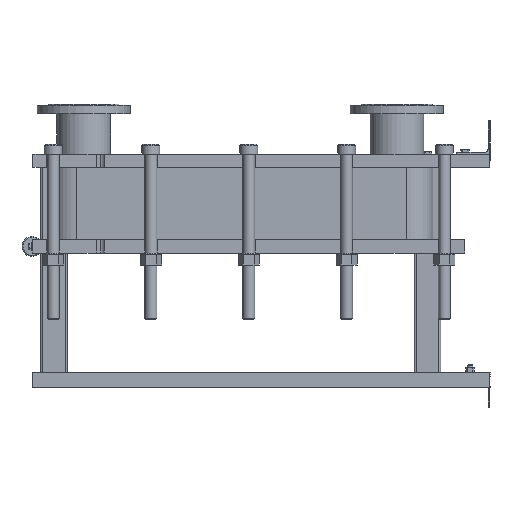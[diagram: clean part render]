
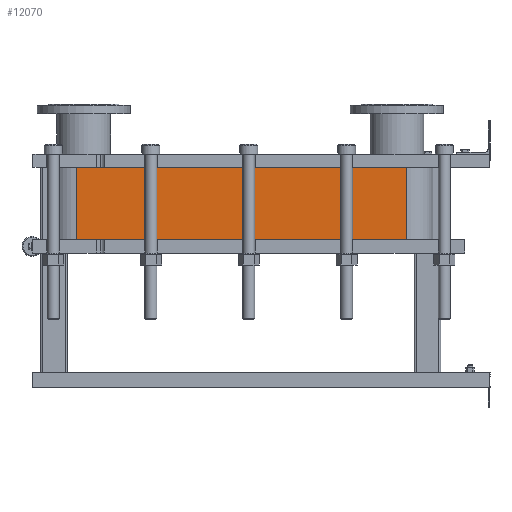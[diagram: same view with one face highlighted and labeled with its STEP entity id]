
A CAD part, left-side view. The second image highlights one B-rep face of the part: STEP entity #12070.
In plain terms, the highlighted planar face has unit normal (-1, 0, 0).
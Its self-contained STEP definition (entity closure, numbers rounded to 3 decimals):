
#1064=LINE('',#21140,#2164);
#1065=LINE('',#21144,#2165);
#1066=LINE('',#21146,#2166);
#1067=LINE('',#21147,#2167);
#2164=VECTOR('',#15790,10.);
#2165=VECTOR('',#15795,10.);
#2166=VECTOR('',#15796,10.);
#2167=VECTOR('',#15797,10.);
#3304=FACE_OUTER_BOUND('',#4091,.T.);
#4091=EDGE_LOOP('',(#9793,#9794,#9795,#9796));
#5677=VERTEX_POINT('',#21137);
#5678=VERTEX_POINT('',#21139);
#5679=VERTEX_POINT('',#21143);
#5680=VERTEX_POINT('',#21145);
#7118=EDGE_CURVE('',#5678,#5677,#1064,.T.);
#7120=EDGE_CURVE('',#5677,#5679,#1065,.T.);
#7121=EDGE_CURVE('',#5680,#5679,#1066,.T.);
#7122=EDGE_CURVE('',#5680,#5678,#1067,.T.);
#9793=ORIENTED_EDGE('',*,*,#7120,.T.);
#9794=ORIENTED_EDGE('',*,*,#7121,.F.);
#9795=ORIENTED_EDGE('',*,*,#7122,.T.);
#9796=ORIENTED_EDGE('',*,*,#7118,.T.);
#11441=PLANE('',#13191);
#12070=ADVANCED_FACE('',(#3304),#11441,.T.);
#13191=AXIS2_PLACEMENT_3D('',#21142,#15793,#15794);
#15790=DIRECTION('',(0.,0.,-1.));
#15793=DIRECTION('center_axis',(-1.,0.,0.));
#15794=DIRECTION('ref_axis',(0.,1.,0.));
#15795=DIRECTION('',(0.,-1.,0.));
#15796=DIRECTION('',(0.,0.,-1.));
#15797=DIRECTION('',(0.,1.,0.));
#21137=CARTESIAN_POINT('',(-248.152,1243.818,-217.35));
#21139=CARTESIAN_POINT('',(-248.152,1243.818,0.));
#21140=CARTESIAN_POINT('',(-248.152,1243.818,0.));
#21142=CARTESIAN_POINT('Origin',(-248.152,251.818,0.));
#21143=CARTESIAN_POINT('',(-248.152,251.818,-217.35));
#21144=CARTESIAN_POINT('',(-248.152,499.818,-217.35));
#21145=CARTESIAN_POINT('',(-248.152,251.818,0.));
#21146=CARTESIAN_POINT('',(-248.152,251.818,0.));
#21147=CARTESIAN_POINT('',(-248.152,251.818,0.));
